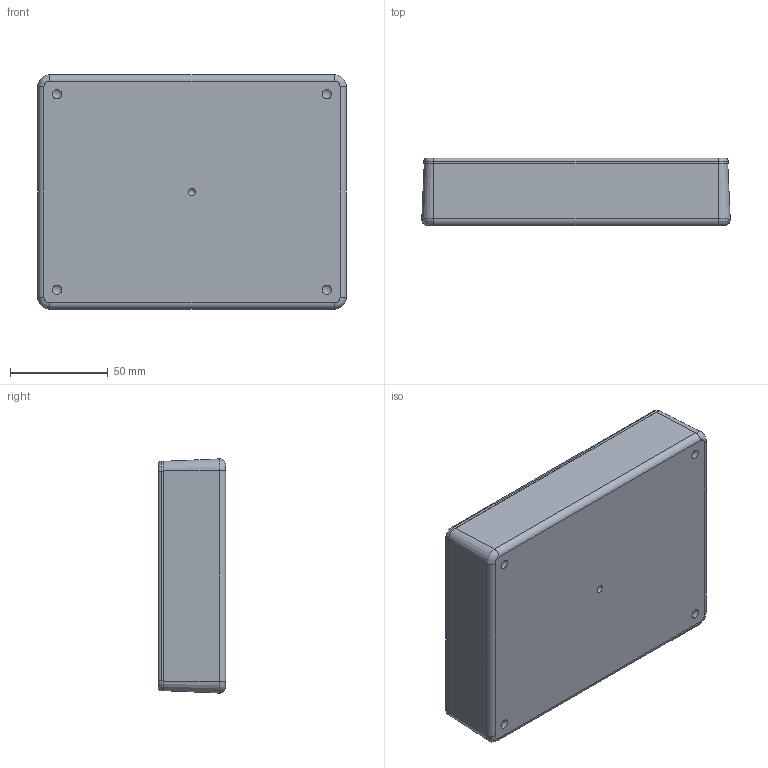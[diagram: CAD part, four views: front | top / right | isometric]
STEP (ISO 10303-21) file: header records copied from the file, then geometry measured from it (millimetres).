
FILE_DESCRIPTION(/* description */ (''),/* implementation_level */ '2;1');
FILE_NAME(/* name */ 'C:/Users/drupert/Desktop/DC-45PMBYT_ASS''Y_BOX_Model v1.step',/* time_stamp */ '2020-04-13T13:19:48-07:00',/* author */ (''),/* organization */ (''),/* preprocessor_version */ 'ST-DEVELOPER v18',/* originating_system */ 'Autodesk Translation Framework v8.12.0.6',/* authorisation */ '');
FILE_SCHEMA (('AUTOMOTIVE_DESIGN { 1 0 10303 214 3 1 1 }'));
Length unit declared in the file: inch
Products named in the file (3): DC-45PMBYT_ASS'Y_BOX_Model; DC-46C_DC-46C-T; DC-45B_DC-45BPMBY
Assembly tree (2 placements, depth 2):
  DC-45PMBYT_ASS'Y_BOX_Model
    DC-46C_DC-46C-T
    DC-45B_DC-45BPMBY
Bounding box: 157.85 x 34.47 x 119.88 mm (x, y, z)
Volume: 147579.8 mm3; surface area: 107101.4 mm2
Topology: 6 solids, 6 shells, 279 faces, 748 edges, 530 vertices
Faces by surface type: plane 129, cylinder 100, cone 36, sphere 6, torus 4, bspline 4
Full cylindrical faces by diameter (mm): 2.261 x4, 3.048 x4, 3.251 x4, 4.496 x8, 4.724 x4, 5.004 x4, 6.096 x4, 6.35 x4, 6.375 x4, 7.366 x4, 9.525 x2, 12.7 x2
Entity records: 9298 total; most frequent: DIRECTION 1718, CARTESIAN_POINT 1668, ORIENTED_EDGE 1496, EDGE_CURVE 748, AXIS2_PLACEMENT_3D 700, VERTEX_POINT 530, CIRCLE 376, EDGE_LOOP 356
